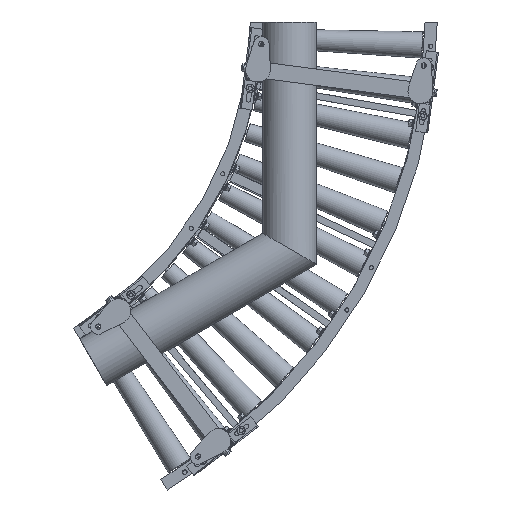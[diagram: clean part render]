
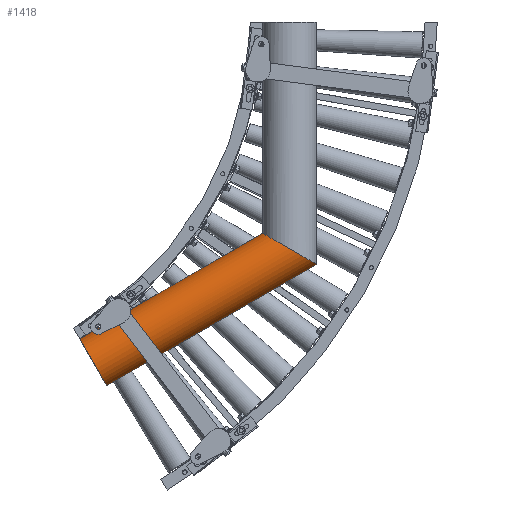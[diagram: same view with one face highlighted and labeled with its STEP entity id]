
A CAD part, front view. The second image highlights one B-rep face of the part: STEP entity #1418.
In plain terms, the highlighted cylindrical face has radius 67.024 mm (diameter 134.048 mm), a partial arc.
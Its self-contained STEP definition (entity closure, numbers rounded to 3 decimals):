
#1418=ADVANCED_FACE('',(#5651),#5650,.T.);
#5650=CYLINDRICAL_SURFACE('',#27050,67.024);
#5651=FACE_OUTER_BOUND('',#27051,.T.);
#27047=CARTESIAN_POINT('',(1000.15,-156.676,-539.159));
#27048=DIRECTION('',(0.866,0.,0.5));
#27049=DIRECTION('',(0.5,0.,-0.866));
#27050=AXIS2_PLACEMENT_3D('',#27047,#27048,#27049);
#27051=EDGE_LOOP('',(#38822,#38823,#38824,#38825));
#38822=ORIENTED_EDGE('',*,*,#49153,.T.);
#38823=ORIENTED_EDGE('',*,*,#49152,.T.);
#38824=ORIENTED_EDGE('',*,*,#49138,.T.);
#38825=ORIENTED_EDGE('',*,*,#49154,.F.);
#49138=EDGE_CURVE('',#59573,#59574,#59575,.T.);
#49152=EDGE_CURVE('',#59629,#59573,#59671,.T.);
#49153=EDGE_CURVE('',#59677,#59629,#59678,.T.);
#49154=EDGE_CURVE('',#59677,#59574,#59684,.T.);
#59573=VERTEX_POINT('',#96456);
#59574=VERTEX_POINT('',#96457);
#59575=CIRCLE('',#96461,67.024);
#59629=VERTEX_POINT('',#96490);
#59671=LINE('',#96514,#96515);
#59677=VERTEX_POINT('',#96517);
#59678=(BOUNDED_CURVE() B_SPLINE_CURVE(2,(#96518,#96519,#96520,#96521,#96522),.UNSPECIFIED.,.F.,.F.) B_SPLINE_CURVE_WITH_KNOTS((3,2,3),(0.147,1.571,2.994),.UNSPECIFIED.) CURVE() GEOMETRIC_REPRESENTATION_ITEM() RATIONAL_B_SPLINE_CURVE((1.,0.757,1.,0.757,1.)) REPRESENTATION_ITEM('') );
#59684=LINE('',#96523,#96524);
#96456=CARTESIAN_POINT('',(450.35,-166.5,-780.029));
#96457=CARTESIAN_POINT('',(516.65,-166.5,-894.864));
#96458=CARTESIAN_POINT('',(483.5,-156.676,-837.447));
#96459=DIRECTION('',(0.866,0.,0.5));
#96460=DIRECTION('',(-0.5,0.,0.866));
#96461=AXIS2_PLACEMENT_3D('',#96458,#96459,#96460);
#96490=CARTESIAN_POINT('',(900.7,-166.5,-520.019));
#96514=CARTESIAN_POINT('',(900.7,-166.5,-520.019));
#96515=VECTOR('',#96516,520.019);
#96516=DIRECTION('',(-0.866,0.,-0.5));
#96517=CARTESIAN_POINT('',(1033.3,-166.5,-596.576));
#96518=CARTESIAN_POINT('',(1033.3,-166.5,-596.576));
#96519=CARTESIAN_POINT('',(1024.825,-223.7,-591.683));
#96520=CARTESIAN_POINT('',(967.,-223.7,-558.298));
#96521=CARTESIAN_POINT('',(909.175,-223.7,-524.913));
#96522=CARTESIAN_POINT('',(900.7,-166.5,-520.019));
#96523=CARTESIAN_POINT('',(1033.3,-166.5,-596.576));
#96524=VECTOR('',#96525,596.576);
#96525=DIRECTION('',(-0.866,0.,-0.5));
